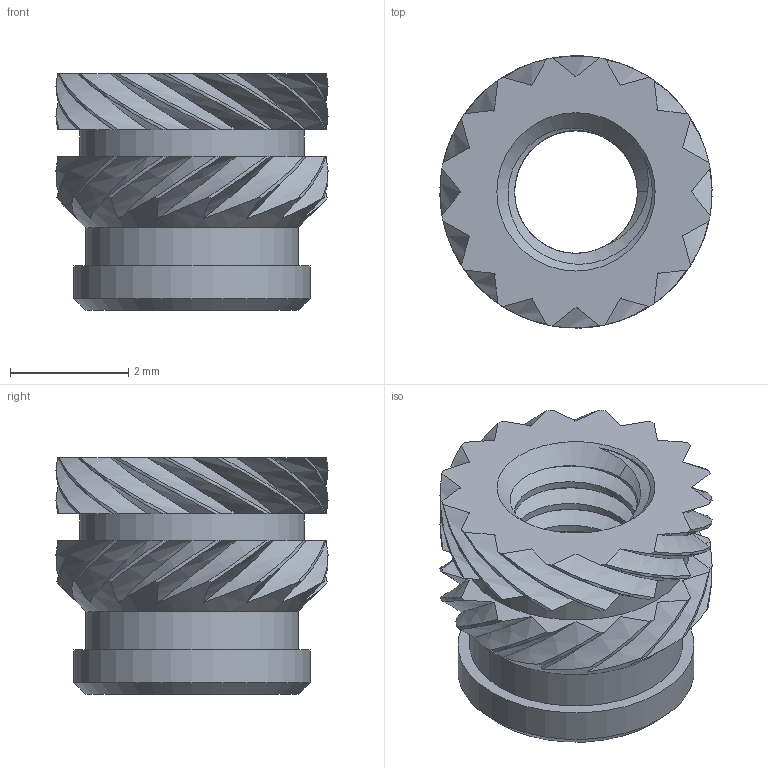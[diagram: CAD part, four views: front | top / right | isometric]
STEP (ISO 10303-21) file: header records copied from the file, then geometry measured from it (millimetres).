
FILE_DESCRIPTION(/* description */ (''),/* implementation_level */ '2;1');
FILE_NAME(/* name */ 'M2p5_Short.step',/* time_stamp */ '2023-05-16T15:27:22+02:00',/* author */ (''),/* organization */ (''),/* preprocessor_version */ 'ST-DEVELOPER v19.2',/* originating_system */ 'Autodesk Translation Framework v12.4.0.73',/* authorisation */ '');
FILE_SCHEMA (('AUTOMOTIVE_DESIGN { 1 0 10303 214 3 1 1 }'));
Length unit declared in the file: millimetre
Products named in the file (1): Insert_M2p5_Short
Bounding box: 4.6 x 4.6 x 4 mm (x, y, z)
Volume: 34 mm3; surface area: 145.9 mm2
Topology: 1 solids, 12 shells, 321 faces, 880 edges, 586 vertices
Faces by surface type: bspline 167, plane 94, cylinder 54, cone 6
Full cylindrical faces by diameter (mm): 2.075 x4, 2.58 x2, 3.6 x1, 3.8 x1, 4 x1
Entity records: 13829 total; most frequent: CARTESIAN_POINT 6995, ORIENTED_EDGE 1760, EDGE_CURVE 880, DIRECTION 800, VERTEX_POINT 586, B_SPLINE_CURVE_WITH_KNOTS 471, EDGE_LOOP 328, LINE 328
